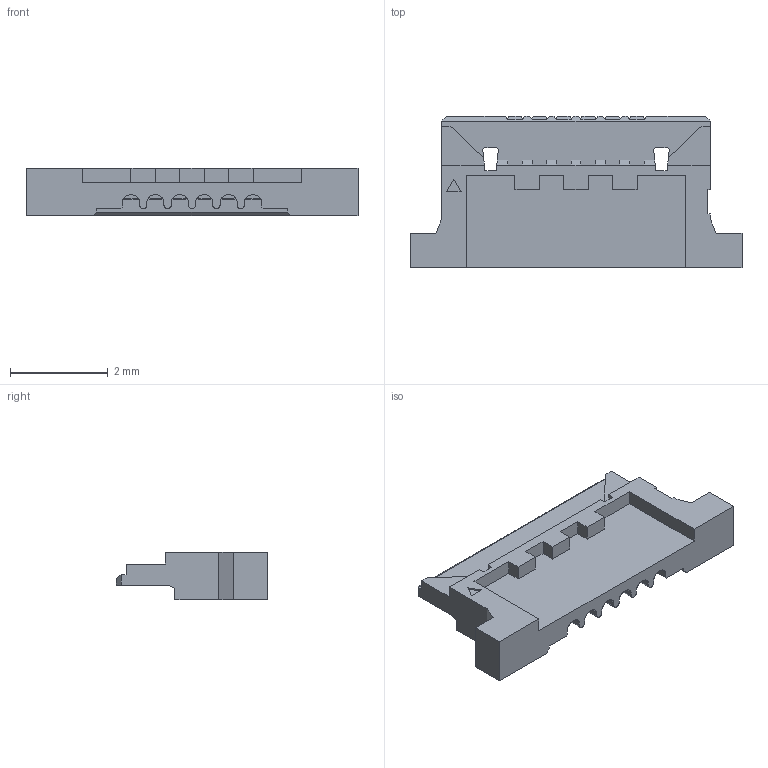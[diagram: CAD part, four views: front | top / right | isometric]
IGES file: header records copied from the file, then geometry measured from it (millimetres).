
Start section: SolidWorks IGES file using analytic representation for surfaces
Global section: file name: \\3D-CAD-10-2\3dwork\fukumoto\6P DW Connector\試作　改訂130110\130430_第二回改造DR形状\3Dまとめ\20598-PLUG HSG ASS'Y 6P.IGS; native system: SolidWorks 2012; preprocessor: SolidWorks 2012; author: 3dcad; date: 150722.151926; units: millimetre
Bounding box: 6.8 x 3.1 x 0.98 mm (x, y, z)
Surface area: 59 mm2 (no closed solid volume)
Topology: 0 solids, 0 shells, 260 faces, 1616 edges, 1616 vertices
Faces by surface type: bspline 237, revolution 23
